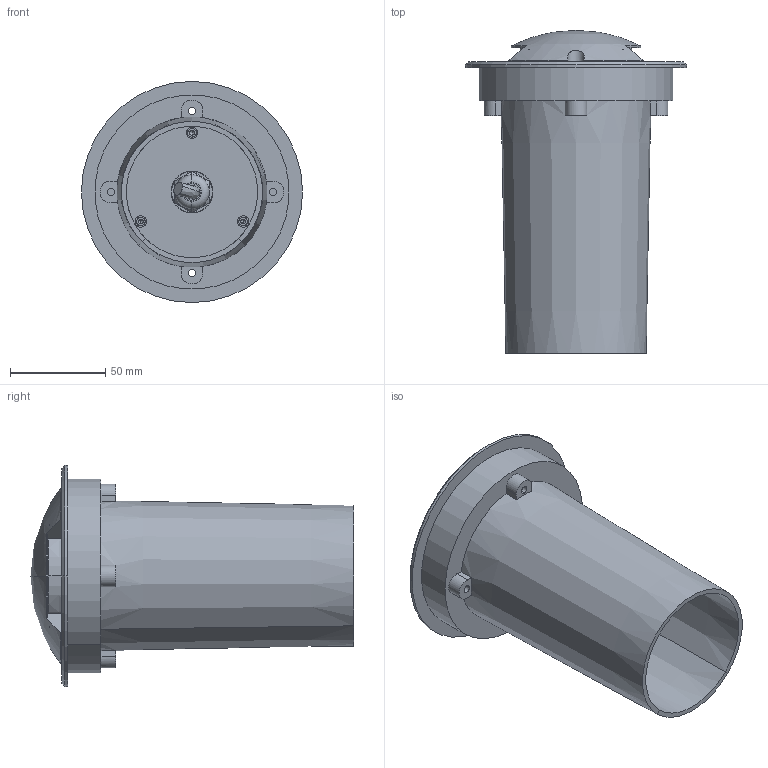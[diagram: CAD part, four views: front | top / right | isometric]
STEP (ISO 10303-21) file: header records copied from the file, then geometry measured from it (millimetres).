
FILE_DESCRIPTION((''),'2;1');
FILE_NAME('2CD-01KONG_ASM','2021-06-30T',('Administrator'),(''),'CREO PARAMETRIC BY PTC INC, 2015200','CREO PARAMETRIC BY PTC INC, 2015200','');
FILE_SCHEMA(('CONFIG_CONTROL_DESIGN'));
Length unit declared in the file: millimetre
Products named in the file (18): 2CD-F_17_2; F-S-T_35_2; PC_36_2; 2CD-JIZA; 2CD-GYB; 2CD-TUOGUANGJING; 2CD-YAPIAN; AL-2AD_O___2; AL-2AD___2; __2_2; __-__7_2; __1_2CD____2; PG9___ASM_2_ASM; 2AD_G_1; 2CD-A; 2CD-2KWUCAO; 2CD-2KONG_ASM; 2CD-01KONG_ASM
Assembly tree (17 placements, depth 3):
  2CD-01KONG_ASM
    2CD-F_17_2
    F-S-T_35_2
    PC_36_2
    2CD-JIZA
    2CD-GYB
    2CD-TUOGUANGJING
    2CD-YAPIAN
    AL-2AD_O___2
    AL-2AD___2
    PG9___ASM_2_ASM
      __2_2
      __-__7_2
      __1_2CD____2
    2AD_G_1
    2CD-2KONG_ASM
      2CD-A
      2CD-2KWUCAO
Bounding box: 116 x 169.5 x 116 mm (x, y, z)
Volume: 306973.2 mm3; surface area: 216178.1 mm2
Topology: 15 solids, 15 shells, 1241 faces, 3198 edges, 2052 vertices
Faces by surface type: plane 484, cylinder 317, cone 183, torus 81, bspline 78, extrusion 66, sphere 32
Entity records: 50352 total; most frequent: CARTESIAN_POINT 20009, ORIENTED_EDGE 6360, DIRECTION 6171, EDGE_CURVE 3180, AXIS2_PLACEMENT_3D 2370, VERTEX_POINT 2052, VECTOR 1431, EDGE_LOOP 1400
